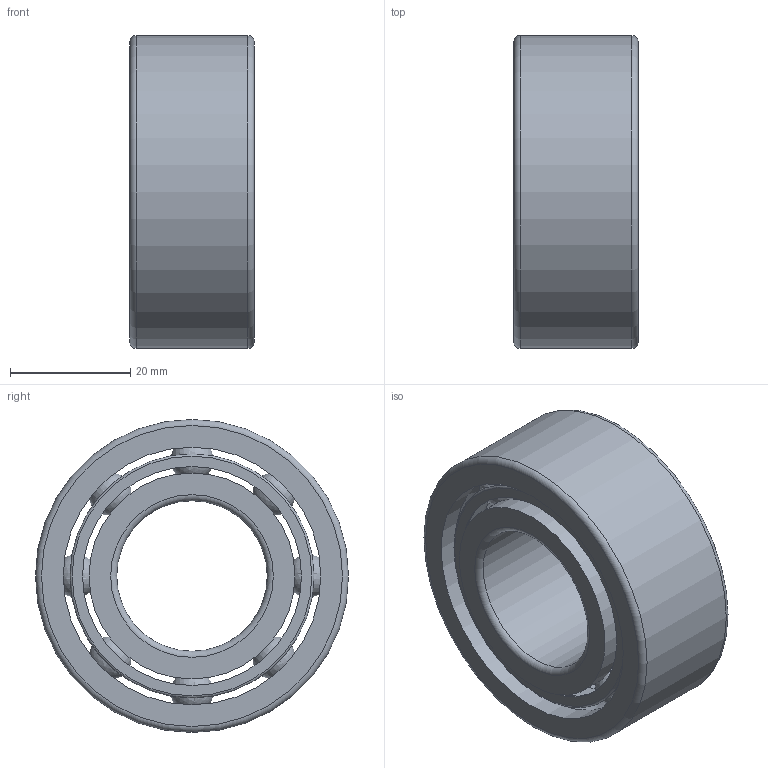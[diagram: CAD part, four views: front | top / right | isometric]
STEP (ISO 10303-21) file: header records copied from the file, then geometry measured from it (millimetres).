
FILE_DESCRIPTION(/* description */ (''),/* implementation_level */ '2;1');
FILE_NAME(/* name */ 'D:\moje\parametrické\32--,33--\32--\32--\3205.stp',/* time_stamp */ '2016-03-17T10:52:18+01:00',/* author */ ('OUBALASKO'),/* organization */ (''),/* preprocessor_version */ 'ST-DEVELOPER v15.2',/* originating_system */ 'Autodesk Inventor 2014',/* authorisation */ '');
FILE_SCHEMA (('AUTOMOTIVE_DESIGN { 1 0 10303 214 3 1 1 }'));
Length unit declared in the file: millimetre
Products named in the file (5): 3205-02; 3205-ball; 3205-cage; 3205-01; 3205
Bounding box: 20.6 x 52 x 52 mm (x, y, z)
Volume: 23723 mm3; surface area: 19047.3 mm2
Topology: 20 solids, 20 shells, 68 faces, 198 edges, 136 vertices
Faces by surface type: sphere 16, bspline 16, cylinder 14, torus 12, plane 10
Full cylindrical faces by diameter (mm): 25 x1, 34.214 x3, 36.357 x2, 39.929 x2, 40.529 x2, 42.786 x3, 52 x1
Entity records: 1980 total; most frequent: CARTESIAN_POINT 1025, DIRECTION 166, ORIENTED_EDGE 138, AXIS2_PLACEMENT_3D 83, EDGE_LOOP 81, EDGE_CURVE 69, VERTEX_POINT 62, FACE_BOUND 49
